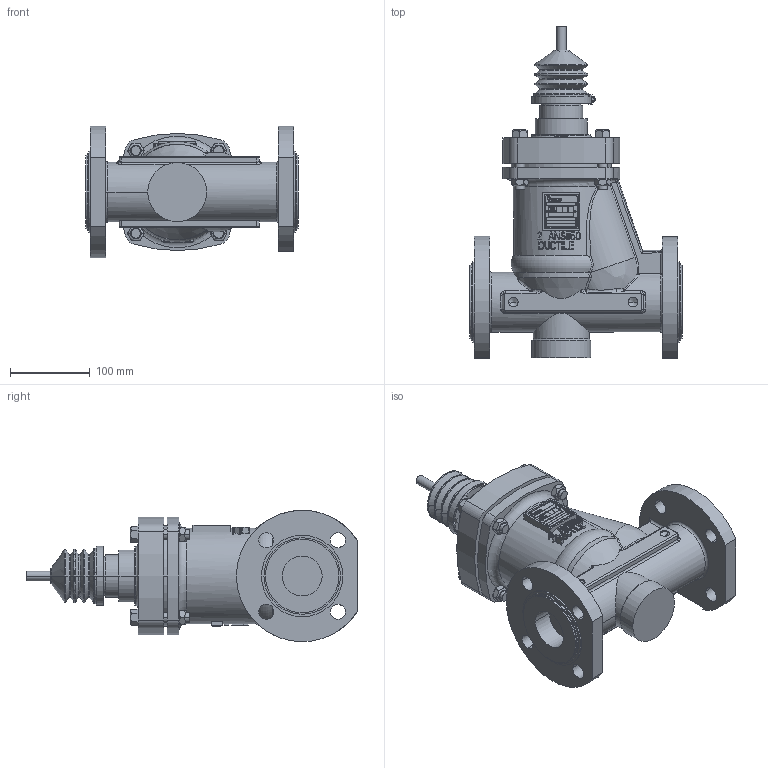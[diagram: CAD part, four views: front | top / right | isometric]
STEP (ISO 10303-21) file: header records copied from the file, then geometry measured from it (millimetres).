
FILE_DESCRIPTION((''),'2;1');
FILE_NAME('9560-00-5029_A_ASM','2014-04-04T',('SParmar1'),(''),'PRO/ENGINEER BY PARAMETRIC TECHNOLOGY CORPORATION, 2011040','PRO/ENGINEER BY PARAMETRIC TECHNOLOGY CORPORATION, 2011040','');
FILE_SCHEMA(('CONFIG_CONTROL_DESIGN'));
Products named in the file (6): 9567-14-2042; 9568-27-5105; 4188_11_1060; M12_X_65; M12_X_HEX_NUT; 9560-00-5029_A_ASM
Assembly tree (11 placements, depth 2):
  9560-00-5029_A_ASM
    9567-14-2042
    9568-27-5105
    4188_11_1060
    M12_X_65  x4
    M12_X_HEX_NUT  x4
Bounding box: 267 x 416.5 x 164.98 mm (x, y, z)
Volume: 4664362.9 mm3; surface area: 413628.4 mm2
Topology: 13 solids, 13 shells, 2776 faces, 7630 edges, 5012 vertices
Faces by surface type: plane 2362, cylinder 217, bspline 67, torus 57, cone 50, extrusion 17, sphere 6
Entity records: 88078 total; most frequent: CARTESIAN_POINT 19535, ORIENTED_EDGE 14884, DIRECTION 12937, EDGE_CURVE 7442, VECTOR 6389, LINE 6372, VERTEX_POINT 4898, AXIS2_PLACEMENT_3D 3274
